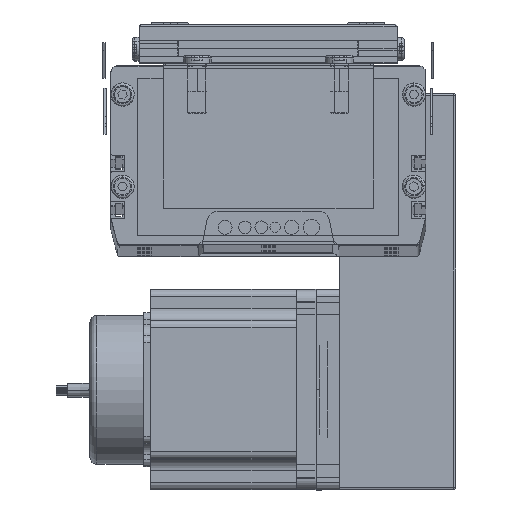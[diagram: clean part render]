
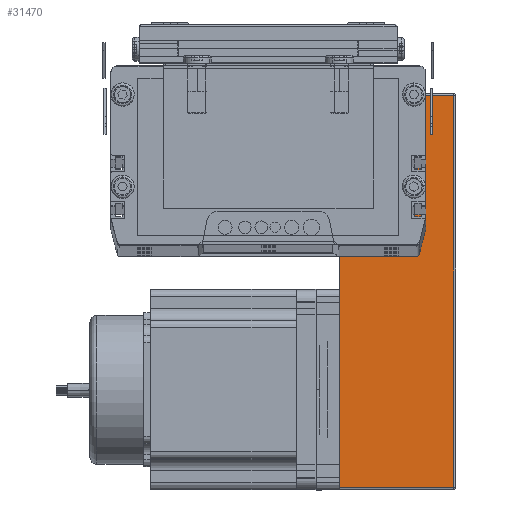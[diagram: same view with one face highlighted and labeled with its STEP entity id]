
A CAD part, top view. The second image highlights one B-rep face of the part: STEP entity #31470.
In plain terms, the highlighted planar face has unit normal (0, 0, 1) as drawn and (0, 1, 0) by its records, which use the part's own axes.
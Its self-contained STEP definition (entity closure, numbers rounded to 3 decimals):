
#31166 = VERTEX_POINT ( 'NONE', #108688 ) ;
#31371 = VERTEX_POINT ( 'NONE', #108731 ) ;
#31456 = ORIENTED_EDGE ( 'NONE', *, *, #32289, .F. ) ;
#31459 = EDGE_CURVE ( 'NONE', #32292, #31166, #108664, .T. ) ;
#31470 = ADVANCED_FACE ( 'NONE', ( #108609 ), #108674, .F. ) ;
#31471 = EDGE_CURVE ( 'NONE', #31928, #31371, #109119, .T. ) ;
#31504 = ORIENTED_EDGE ( 'NONE', *, *, #31787, .F. ) ;
#31510 = ORIENTED_EDGE ( 'NONE', *, *, #31471, .F. ) ;
#31575 = VERTEX_POINT ( 'NONE', #109713 ) ;
#31690 = EDGE_CURVE ( 'NONE', #31575, #31371, #109618, .T. ) ;
#31781 = EDGE_CURVE ( 'NONE', #31926, #31928, #109839, .T. ) ;
#31786 = ORIENTED_EDGE ( 'NONE', *, *, #32279, .F. ) ;
#31787 = EDGE_CURVE ( 'NONE', #32272, #31926, #109850, .T. ) ;
#31926 = VERTEX_POINT ( 'NONE', #110284 ) ;
#31928 = VERTEX_POINT ( 'NONE', #110245 ) ;
#31933 = VERTEX_POINT ( 'NONE', #110266 ) ;
#31963 = EDGE_CURVE ( 'NONE', #31166, #32276, #110223, .T. ) ;
#31968 = ORIENTED_EDGE ( 'NONE', *, *, #31781, .F. ) ;
#31984 = EDGE_LOOP ( 'NONE', ( #32415, #31510, #31968, #31504, #31786, #31456, #32286, #32284, #32338 ) ) ;
#32272 = VERTEX_POINT ( 'NONE', #110864 ) ;
#32276 = VERTEX_POINT ( 'NONE', #110860 ) ;
#32279 = EDGE_CURVE ( 'NONE', #31933, #32272, #110890, .T. ) ;
#32284 = ORIENTED_EDGE ( 'NONE', *, *, #31963, .T. ) ;
#32286 = ORIENTED_EDGE ( 'NONE', *, *, #31459, .T. ) ;
#32289 = EDGE_CURVE ( 'NONE', #32292, #31933, #110833, .T. ) ;
#32292 = VERTEX_POINT ( 'NONE', #110821 ) ;
#32331 = EDGE_CURVE ( 'NONE', #32276, #31575, #110574, .T. ) ;
#32338 = ORIENTED_EDGE ( 'NONE', *, *, #32331, .T. ) ;
#32415 = ORIENTED_EDGE ( 'NONE', *, *, #31690, .T. ) ;
#108602 = DIRECTION ( 'NONE',  ( 0., 0., -1. ) ) ;
#108603 = DIRECTION ( 'NONE',  ( 0., 0., 1. ) ) ;
#108604 = VECTOR ( 'NONE', #108603, 1000. ) ;
#108606 = CARTESIAN_POINT ( 'NONE',  ( 0., 70., 50. ) ) ;
#108609 = FACE_OUTER_BOUND ( 'NONE', #31984, .T. ) ;
#108610 = AXIS2_PLACEMENT_3D ( 'NONE', #108606, #108665, #108602 ) ;
#108663 = CARTESIAN_POINT ( 'NONE',  ( 1., 70., 50. ) ) ;
#108664 = LINE ( 'NONE', #108663, #108604 ) ;
#108665 = DIRECTION ( 'NONE',  ( 0., -1., 0. ) ) ;
#108674 = PLANE ( 'NONE',  #108610 ) ;
#108688 = CARTESIAN_POINT ( 'NONE',  ( 1., 70., 49. ) ) ;
#108731 = CARTESIAN_POINT ( 'NONE',  ( 85.9, 70., 0. ) ) ;
#108887 = VECTOR ( 'NONE', #109026, 1000. ) ;
#109026 = DIRECTION ( 'NONE',  ( 1., 0., 0. ) ) ;
#109107 = CARTESIAN_POINT ( 'NONE',  ( 0., 70., 0. ) ) ;
#109119 = LINE ( 'NONE', #109107, #108887 ) ;
#109615 = DIRECTION ( 'NONE',  ( -1., 0., 0. ) ) ;
#109616 = VECTOR ( 'NONE', #109615, 1000. ) ;
#109617 = CARTESIAN_POINT ( 'NONE',  ( 0., 70., 0. ) ) ;
#109618 = LINE ( 'NONE', #109617, #109616 ) ;
#109713 = CARTESIAN_POINT ( 'NONE',  ( 169., 70., 0. ) ) ;
#109829 = DIRECTION ( 'NONE',  ( 1., 0., 0. ) ) ;
#109830 = VECTOR ( 'NONE', #109829, 1000. ) ;
#109835 = DIRECTION ( 'NONE',  ( 1., 0., 0. ) ) ;
#109836 = VECTOR ( 'NONE', #109835, 1000. ) ;
#109838 = CARTESIAN_POINT ( 'NONE',  ( 0., 70., 0. ) ) ;
#109839 = LINE ( 'NONE', #109838, #109836 ) ;
#109849 = CARTESIAN_POINT ( 'NONE',  ( 0., 70., 0. ) ) ;
#109850 = LINE ( 'NONE', #109849, #109830 ) ;
#110176 = DIRECTION ( 'NONE',  ( 1., 0., 0. ) ) ;
#110178 = VECTOR ( 'NONE', #110176, 1000. ) ;
#110190 = CARTESIAN_POINT ( 'NONE',  ( 0., 70., 49. ) ) ;
#110223 = LINE ( 'NONE', #110190, #110178 ) ;
#110245 = CARTESIAN_POINT ( 'NONE',  ( 80.439, 70., 0. ) ) ;
#110266 = CARTESIAN_POINT ( 'NONE',  ( 5.418, 70., 0. ) ) ;
#110284 = CARTESIAN_POINT ( 'NONE',  ( 74.961, 70., 0. ) ) ;
#110565 = DIRECTION ( 'NONE',  ( 0., 0., -1. ) ) ;
#110566 = VECTOR ( 'NONE', #110565, 1000. ) ;
#110574 = LINE ( 'NONE', #110576, #110566 ) ;
#110576 = CARTESIAN_POINT ( 'NONE',  ( 169., 70., 50. ) ) ;
#110815 = DIRECTION ( 'NONE',  ( 1., 0., 0. ) ) ;
#110816 = VECTOR ( 'NONE', #110815, 1000. ) ;
#110818 = CARTESIAN_POINT ( 'NONE',  ( 0., 70., 0. ) ) ;
#110821 = CARTESIAN_POINT ( 'NONE',  ( 1., 70., 0. ) ) ;
#110831 = DIRECTION ( 'NONE',  ( 1., 0., 0. ) ) ;
#110832 = VECTOR ( 'NONE', #110831, 1000. ) ;
#110833 = LINE ( 'NONE', #110818, #110816 ) ;
#110846 = CARTESIAN_POINT ( 'NONE',  ( 0., 70., 0. ) ) ;
#110860 = CARTESIAN_POINT ( 'NONE',  ( 169., 70., 49. ) ) ;
#110864 = CARTESIAN_POINT ( 'NONE',  ( 10.902, 70., 0. ) ) ;
#110890 = LINE ( 'NONE', #110846, #110832 ) ;
